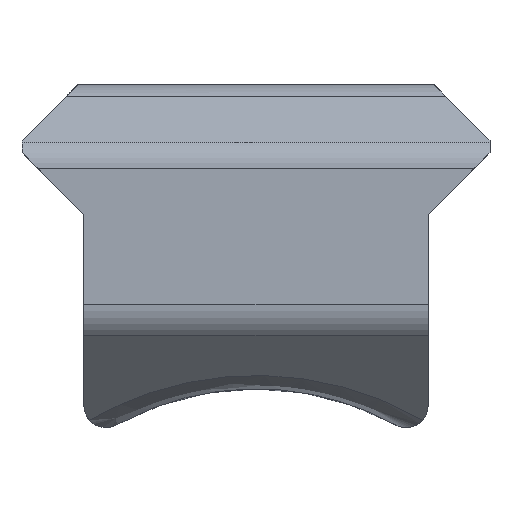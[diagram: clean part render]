
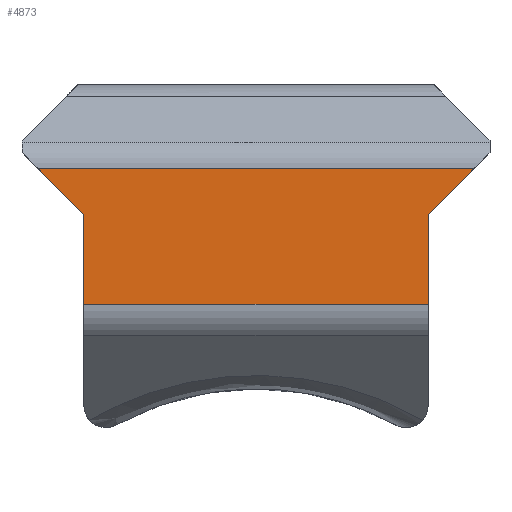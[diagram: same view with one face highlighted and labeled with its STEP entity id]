
A CAD part, front view. The second image highlights one B-rep face of the part: STEP entity #4873.
In plain terms, the highlighted planar face has unit normal (0, -1, 0).
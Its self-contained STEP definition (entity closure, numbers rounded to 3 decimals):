
#527=FACE_OUTER_BOUND('',#801,.T.);
#801=EDGE_LOOP('',(#4146,#4147,#4148,#4149,#4150,#4151));
#1185=LINE('',#7757,#1706);
#1186=LINE('',#7763,#1707);
#1331=LINE('',#8178,#1852);
#1334=LINE('',#8187,#1855);
#1335=LINE('',#8189,#1856);
#1340=LINE('',#8200,#1861);
#1706=VECTOR('',#6223,10.);
#1707=VECTOR('',#6230,10.);
#1852=VECTOR('',#6651,10.);
#1855=VECTOR('',#6662,10.);
#1856=VECTOR('',#6665,10.);
#1861=VECTOR('',#6676,10.);
#2196=VERTEX_POINT('',#7754);
#2197=VERTEX_POINT('',#7756);
#2198=VERTEX_POINT('',#7760);
#2199=VERTEX_POINT('',#7762);
#2331=VERTEX_POINT('',#8177);
#2333=VERTEX_POINT('',#8185);
#2784=EDGE_CURVE('',#2197,#2196,#1185,.F.);
#2787=EDGE_CURVE('',#2199,#2198,#1186,.F.);
#2996=EDGE_CURVE('',#2331,#2199,#1331,.F.);
#3001=EDGE_CURVE('',#2196,#2333,#1334,.F.);
#3002=EDGE_CURVE('',#2331,#2333,#1335,.T.);
#3008=EDGE_CURVE('',#2197,#2198,#1340,.T.);
#4146=ORIENTED_EDGE('',*,*,#3002,.F.);
#4147=ORIENTED_EDGE('',*,*,#2996,.T.);
#4148=ORIENTED_EDGE('',*,*,#2787,.T.);
#4149=ORIENTED_EDGE('',*,*,#3008,.F.);
#4150=ORIENTED_EDGE('',*,*,#2784,.T.);
#4151=ORIENTED_EDGE('',*,*,#3001,.T.);
#4609=PLANE('',#5340);
#4873=ADVANCED_FACE('',(#527),#4609,.F.);
#5340=AXIS2_PLACEMENT_3D('',#8199,#6674,#6675);
#6223=DIRECTION('',(0.,0.,-1.));
#6230=DIRECTION('',(0.,0.,1.));
#6651=DIRECTION('',(-0.707,0.,0.707));
#6662=DIRECTION('',(-0.707,0.,-0.707));
#6665=DIRECTION('',(1.,0.,0.));
#6674=DIRECTION('center_axis',(0.,1.,0.));
#6675=DIRECTION('ref_axis',(0.,0.,1.));
#6676=DIRECTION('',(-1.,0.,0.));
#7754=CARTESIAN_POINT('',(23.693,-47.316,-95.413));
#7756=CARTESIAN_POINT('',(23.693,-47.316,-99.43));
#7757=CARTESIAN_POINT('',(23.693,-47.316,-93.876));
#7760=CARTESIAN_POINT('',(8.261,-47.316,-99.43));
#7762=CARTESIAN_POINT('',(8.261,-47.316,-95.413));
#7763=CARTESIAN_POINT('',(8.261,-47.316,-93.876));
#8177=CARTESIAN_POINT('',(6.219,-47.316,-93.371));
#8178=CARTESIAN_POINT('',(6.029,-47.316,-93.181));
#8185=CARTESIAN_POINT('',(25.734,-47.316,-93.371));
#8187=CARTESIAN_POINT('',(21.235,-47.316,-97.871));
#8189=CARTESIAN_POINT('',(5.492,-47.316,-93.371));
#8199=CARTESIAN_POINT('Origin',(5.492,-47.316,-92.581));
#8200=CARTESIAN_POINT('',(14.592,-47.316,-99.43));
